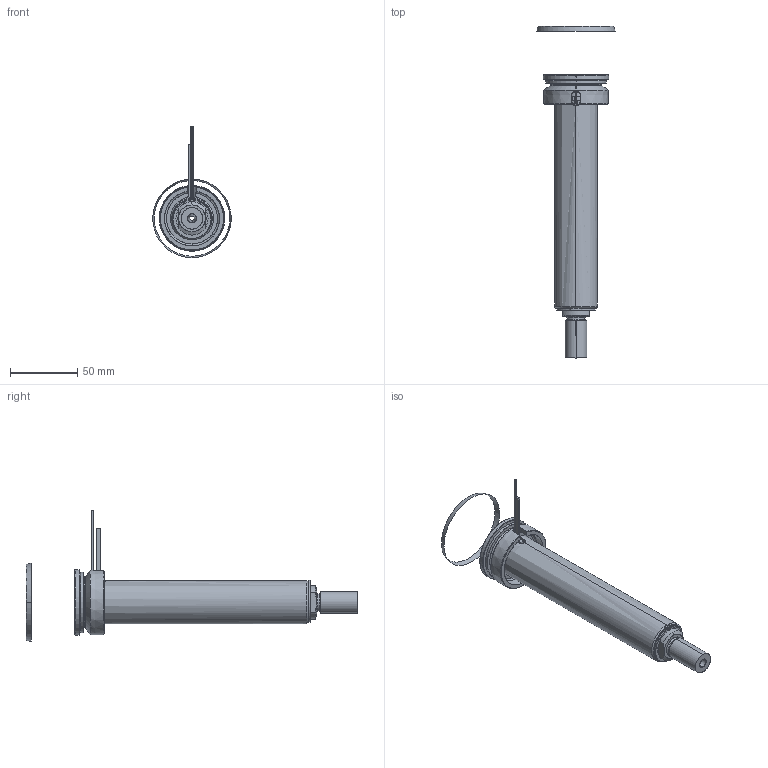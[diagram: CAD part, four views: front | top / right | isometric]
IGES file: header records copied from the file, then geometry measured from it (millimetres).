
Start section: SolidWorks IGES file using analytic representation for surfaces
Global section: file name: C:\Documents and Settings\ws-20\Desktop\TEMPORANEA\UGBE5004-S-A-P-3 [Ød-3.5 P-25 ØC-13].IGS; native system: SolidWorks 2012; preprocessor: SolidWorks 2012; author: ws-20; date: 120306.162657; units: millimetre
Bounding box: 58.57 x 247.44 x 97.91 mm (x, y, z)
Surface area: 69235.3 mm2 (no closed solid volume)
Topology: 0 solids, 0 shells, 110 faces, 2118 edges, 2118 vertices
Faces by surface type: revolution 67, bspline 43
